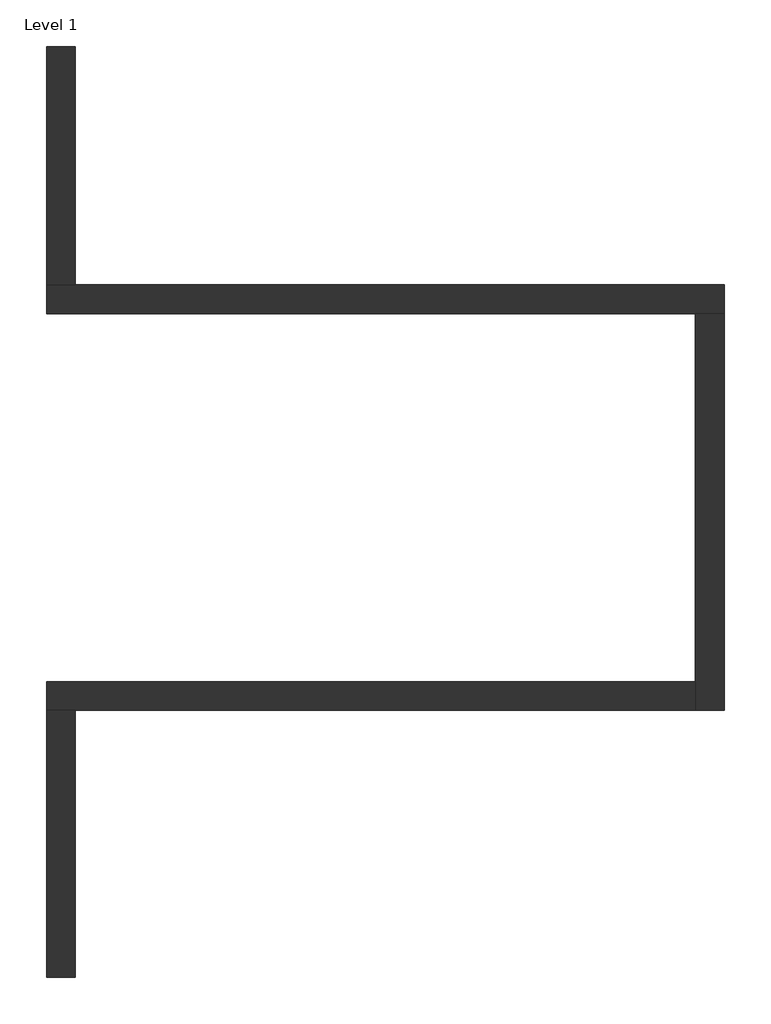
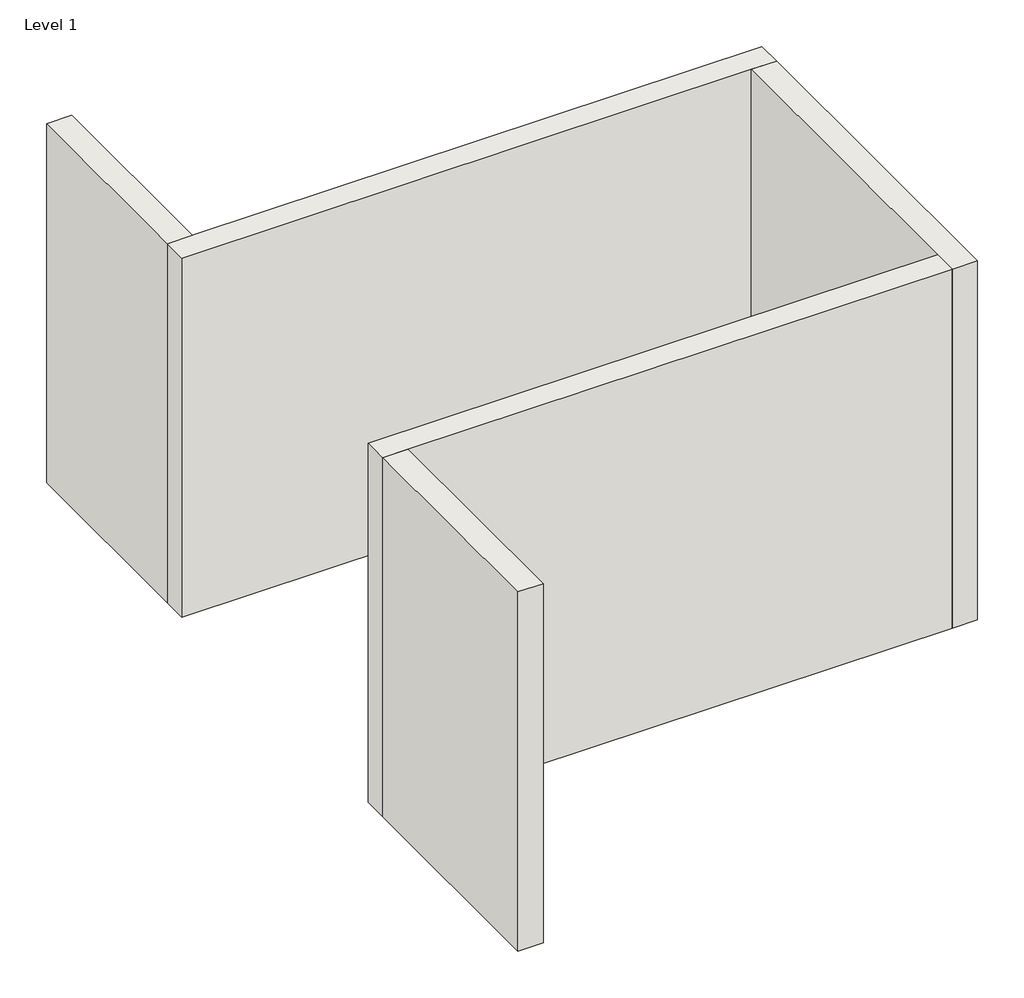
# One storey: 5 walls.
"""IFC4 building model written with IfcOpenShell, lengths in millimetres."""

from ifc_helpers import new_model, si_unit, origin, origin_with_axes, place, context, project, spatial, polyline, outline, extrude, faceted_brep, element, save

model = new_model("IFC4")

# Units and contexts
model_context = context("Model", 3, world=origin())
ifc_project = project(units=[si_unit("LENGTHUNIT", "METRE", prefix="MILLI")], contexts=[model_context])

# Site, building, storey
site = spatial("IfcSite", under=ifc_project)
building = spatial("IfcBuilding", under=site)
storey = spatial("IfcBuildingStorey", under=building, Name="Level 1", Elevation=0.0)

# Walls
placement = place(None, origin())
element("IfcWall", 1, ObjectType="Generic - 8\"", at=placement, inside=storey, context=model_context, shape_type="Brep", body=[
    faceted_brep([(-4993.8972322, 3983.7543518, 0.0), (-421.8972322, 3983.7543518, 0.0), (-218.6972322, 3983.7543518, 0.0), (-218.6972322, 3983.7543518, 3048.0), (-421.8972322, 3983.7543518, 3048.0), (-4993.8972322, 3983.7543518, 3048.0), (-4993.8972322, 4186.9543518, 0.0), (-4993.8972322, 4186.9543518, 3048.0), (-4790.6972322, 4186.9543518, 3048.0), (-218.6972322, 4186.9543518, 3048.0), (-218.6972322, 4186.9543518, 0.0), (-4790.6972322, 4186.9543518, 0.0)], [[[0, 1, 2, 3, 4, 5]], [[6, 7, 8, 9, 10, 11]], [[2, 1, 0, 6, 11, 10]], [[5, 4, 3, 9, 8, 7]], [[3, 2, 10, 9]], [[0, 5, 7, 6]]]),
])
element("IfcWall", 2, ObjectType="Generic - 8\"", at=placement, inside=storey, context=model_context, shape_type="Brep", body=[
    faceted_brep([(-421.8972322, 3983.7543518, 0.0), (-421.8972322, 1392.9543518, 0.0), (-421.8972322, 1189.7543518, 0.0), (-421.8972322, 1189.7543518, 3048.0), (-421.8972322, 1392.9543518, 3048.0), (-421.8972322, 3983.7543518, 3048.0), (-218.6972322, 3983.7543518, 0.0), (-218.6972322, 3983.7543518, 3048.0), (-218.6972322, 1189.7543518, 3048.0), (-218.6972322, 1189.7543518, 0.0)], [[[0, 1, 2, 3, 4, 5]], [[6, 7, 8, 9]], [[2, 1, 0, 6, 9]], [[5, 4, 3, 8, 7]], [[3, 2, 9, 8]], [[0, 5, 7, 6]]]),
])
element("IfcWall", 3, ObjectType="Generic - 8\"", at=placement, inside=storey, context=model_context, shape_type="Brep", body=[
    faceted_brep([(-421.8972322, 1392.9543518, 0.0), (-4993.8972322, 1392.9543518, 0.0), (-4993.8972322, 1392.9543518, 3048.0), (-421.8972322, 1392.9543518, 3048.0), (-421.8972322, 1189.7543518, 0.0), (-421.8972322, 1189.7543518, 3048.0), (-4790.6972322, 1189.7543518, 3048.0), (-4993.8972322, 1189.7543518, 3048.0), (-4993.8972322, 1189.7543518, 0.0), (-4790.6972322, 1189.7543518, 0.0)], [[[0, 1, 2, 3]], [[4, 5, 6, 7, 8, 9]], [[1, 0, 4, 9, 8]], [[3, 2, 7, 6, 5]], [[2, 1, 8, 7]], [[0, 3, 5, 4]]]),
])
element("IfcWall", 4, ObjectType="Generic - 8\"", at=placement, inside=storey, context=model_context, shape_type="SweptSolid", body=[
    extrude(outline(polyline([(-4993.8972322, -689.8456482), (-4993.8972322, 1189.7543518), (-4790.6972322, 1189.7543518), (-4790.6972322, -689.8456482), (-4993.8972322, -689.8456482)])), origin_with_axes(), (0.0, 0.0, 1.0), 3048.0),
])
element("IfcWall", 5, ObjectType="Generic - 8\"", at=placement, inside=storey, context=model_context, shape_type="SweptSolid", body=[
    extrude(outline(polyline([(-4790.6972322, 5863.3543518), (-4790.6972322, 4186.9543518), (-4993.8972322, 4186.9543518), (-4993.8972322, 5863.3543518), (-4790.6972322, 5863.3543518)])), origin_with_axes(), (0.0, 0.0, 1.0), 3048.0),
])

save(model, "model.ifc")
